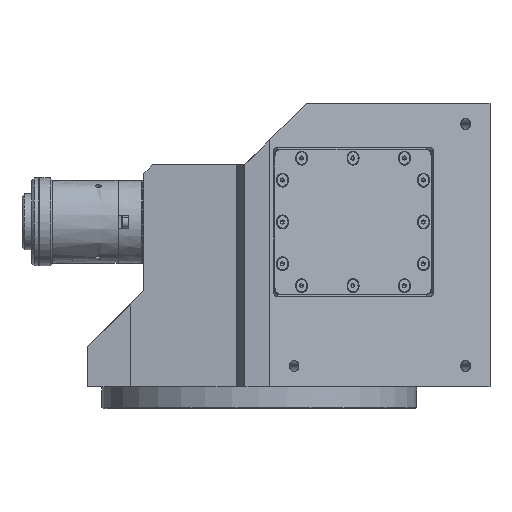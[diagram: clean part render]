
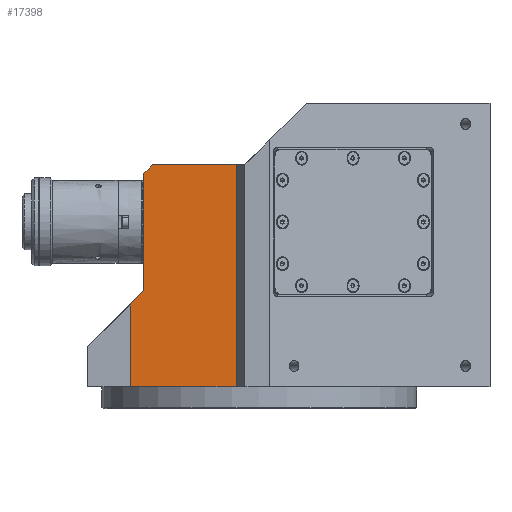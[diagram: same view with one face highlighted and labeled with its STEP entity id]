
A CAD part, front view. The second image highlights one B-rep face of the part: STEP entity #17398.
In plain terms, the highlighted free-form (B-spline) face has degree [1, 1] with [2, 2] control points.
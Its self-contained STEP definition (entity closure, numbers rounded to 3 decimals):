
#17398 = ADVANCED_FACE('',(#17399),#17413,.T.);
#17399 = FACE_BOUND('',#17400,.T.);
#17400 = EDGE_LOOP('',(#17401,#17423,#17438,#17453,#17468,#17483,#17498)
  );
#17401 = ORIENTED_EDGE('',*,*,#17402,.T.);
#17402 = EDGE_CURVE('',#17403,#17405,#17407,.T.);
#17403 = VERTEX_POINT('',#17404);
#17404 = CARTESIAN_POINT('',(-52.534,-85.,104.));
#17405 = VERTEX_POINT('',#17406);
#17406 = CARTESIAN_POINT('',(-48.534,-85.,108.));
#17407 = SURFACE_CURVE('',#17408,(#17412),.PCURVE_S1.);
#17408 = LINE('',#17409,#17410);
#17409 = CARTESIAN_POINT('',(-52.534,-85.,104.));
#17410 = VECTOR('',#17411,1.);
#17411 = DIRECTION('',(0.707,0.,0.707));
#17412 = PCURVE('',#17413,#17418);
#17413 = B_SPLINE_SURFACE_WITH_KNOTS('',1,1,(
    (#17414,#17415)
    ,(#17416,#17417
    )),.UNSPECIFIED.,.F.,.F.,.F.,(2,2),(2,2),(0.,1.),(0.,1.),
  .PIECEWISE_BEZIER_KNOTS.);
#17414 = CARTESIAN_POINT('',(-58.527,-85.,7.));
#17415 = CARTESIAN_POINT('',(-10.523,-85.,7.));
#17416 = CARTESIAN_POINT('',(-58.527,-85.,108.));
#17417 = CARTESIAN_POINT('',(-10.523,-85.,108.));
#17418 = DEFINITIONAL_REPRESENTATION('',(#17419),#17422);
#17419 = B_SPLINE_CURVE_WITH_KNOTS('',1,(#17420,#17421),.UNSPECIFIED.,
  .F.,.F.,(2,2),(0.,5.657),.PIECEWISE_BEZIER_KNOTS.);
#17420 = CARTESIAN_POINT('',(0.96,0.125));
#17421 = CARTESIAN_POINT('',(1.,0.208));
#17422 = ( GEOMETRIC_REPRESENTATION_CONTEXT(2) 
PARAMETRIC_REPRESENTATION_CONTEXT() REPRESENTATION_CONTEXT('',''
  ) );
#17423 = ORIENTED_EDGE('',*,*,#17424,.T.);
#17424 = EDGE_CURVE('',#17405,#17425,#17427,.T.);
#17425 = VERTEX_POINT('',#17426);
#17426 = CARTESIAN_POINT('',(-10.523,-85.,108.));
#17427 = SURFACE_CURVE('',#17428,(#17432),.PCURVE_S1.);
#17428 = LINE('',#17429,#17430);
#17429 = CARTESIAN_POINT('',(-48.534,-85.,108.));
#17430 = VECTOR('',#17431,1.);
#17431 = DIRECTION('',(1.,0.,0.));
#17432 = PCURVE('',#17413,#17433);
#17433 = DEFINITIONAL_REPRESENTATION('',(#17434),#17437);
#17434 = B_SPLINE_CURVE_WITH_KNOTS('',1,(#17435,#17436),.UNSPECIFIED.,
  .F.,.F.,(2,2),(0.,38.011),.PIECEWISE_BEZIER_KNOTS.);
#17435 = CARTESIAN_POINT('',(1.,0.208));
#17436 = CARTESIAN_POINT('',(1.,1.));
#17437 = ( GEOMETRIC_REPRESENTATION_CONTEXT(2) 
PARAMETRIC_REPRESENTATION_CONTEXT() REPRESENTATION_CONTEXT('',''
  ) );
#17438 = ORIENTED_EDGE('',*,*,#17439,.T.);
#17439 = EDGE_CURVE('',#17425,#17440,#17442,.T.);
#17440 = VERTEX_POINT('',#17441);
#17441 = CARTESIAN_POINT('',(-10.523,-85.,7.));
#17442 = SURFACE_CURVE('',#17443,(#17447),.PCURVE_S1.);
#17443 = LINE('',#17444,#17445);
#17444 = CARTESIAN_POINT('',(-10.523,-85.,108.));
#17445 = VECTOR('',#17446,1.);
#17446 = DIRECTION('',(0.,0.,-1.));
#17447 = PCURVE('',#17413,#17448);
#17448 = DEFINITIONAL_REPRESENTATION('',(#17449),#17452);
#17449 = B_SPLINE_CURVE_WITH_KNOTS('',1,(#17450,#17451),.UNSPECIFIED.,
  .F.,.F.,(2,2),(0.,101.),.PIECEWISE_BEZIER_KNOTS.);
#17450 = CARTESIAN_POINT('',(1.,1.));
#17451 = CARTESIAN_POINT('',(0.,1.));
#17452 = ( GEOMETRIC_REPRESENTATION_CONTEXT(2) 
PARAMETRIC_REPRESENTATION_CONTEXT() REPRESENTATION_CONTEXT('',''
  ) );
#17453 = ORIENTED_EDGE('',*,*,#17454,.T.);
#17454 = EDGE_CURVE('',#17440,#17455,#17457,.T.);
#17455 = VERTEX_POINT('',#17456);
#17456 = CARTESIAN_POINT('',(-58.527,-85.,7.));
#17457 = SURFACE_CURVE('',#17458,(#17462),.PCURVE_S1.);
#17458 = LINE('',#17459,#17460);
#17459 = CARTESIAN_POINT('',(-10.523,-85.,7.));
#17460 = VECTOR('',#17461,1.);
#17461 = DIRECTION('',(-1.,0.,0.));
#17462 = PCURVE('',#17413,#17463);
#17463 = DEFINITIONAL_REPRESENTATION('',(#17464),#17467);
#17464 = B_SPLINE_CURVE_WITH_KNOTS('',1,(#17465,#17466),.UNSPECIFIED.,
  .F.,.F.,(2,2),(0.,48.004),.PIECEWISE_BEZIER_KNOTS.);
#17465 = CARTESIAN_POINT('',(0.,1.));
#17466 = CARTESIAN_POINT('',(0.,0.));
#17467 = ( GEOMETRIC_REPRESENTATION_CONTEXT(2) 
PARAMETRIC_REPRESENTATION_CONTEXT() REPRESENTATION_CONTEXT('',''
  ) );
#17468 = ORIENTED_EDGE('',*,*,#17469,.T.);
#17469 = EDGE_CURVE('',#17455,#17470,#17472,.T.);
#17470 = VERTEX_POINT('',#17471);
#17471 = CARTESIAN_POINT('',(-58.527,-85.,44.686));
#17472 = SURFACE_CURVE('',#17473,(#17477),.PCURVE_S1.);
#17473 = LINE('',#17474,#17475);
#17474 = CARTESIAN_POINT('',(-58.527,-85.,7.));
#17475 = VECTOR('',#17476,1.);
#17476 = DIRECTION('',(0.,0.,1.));
#17477 = PCURVE('',#17413,#17478);
#17478 = DEFINITIONAL_REPRESENTATION('',(#17479),#17482);
#17479 = B_SPLINE_CURVE_WITH_KNOTS('',1,(#17480,#17481),.UNSPECIFIED.,
  .F.,.F.,(2,2),(0.,37.686),.PIECEWISE_BEZIER_KNOTS.);
#17480 = CARTESIAN_POINT('',(0.,0.));
#17481 = CARTESIAN_POINT('',(0.373,0.));
#17482 = ( GEOMETRIC_REPRESENTATION_CONTEXT(2) 
PARAMETRIC_REPRESENTATION_CONTEXT() REPRESENTATION_CONTEXT('',''
  ) );
#17483 = ORIENTED_EDGE('',*,*,#17484,.T.);
#17484 = EDGE_CURVE('',#17470,#17485,#17487,.T.);
#17485 = VERTEX_POINT('',#17486);
#17486 = CARTESIAN_POINT('',(-52.534,-85.,50.679));
#17487 = SURFACE_CURVE('',#17488,(#17492),.PCURVE_S1.);
#17488 = LINE('',#17489,#17490);
#17489 = CARTESIAN_POINT('',(-58.527,-85.,44.686));
#17490 = VECTOR('',#17491,1.);
#17491 = DIRECTION('',(0.707,0.,0.707));
#17492 = PCURVE('',#17413,#17493);
#17493 = DEFINITIONAL_REPRESENTATION('',(#17494),#17497);
#17494 = B_SPLINE_CURVE_WITH_KNOTS('',1,(#17495,#17496),.UNSPECIFIED.,
  .F.,.F.,(2,2),(0.,8.476),.PIECEWISE_BEZIER_KNOTS.);
#17495 = CARTESIAN_POINT('',(0.373,0.));
#17496 = CARTESIAN_POINT('',(0.432,0.125));
#17497 = ( GEOMETRIC_REPRESENTATION_CONTEXT(2) 
PARAMETRIC_REPRESENTATION_CONTEXT() REPRESENTATION_CONTEXT('',''
  ) );
#17498 = ORIENTED_EDGE('',*,*,#17499,.T.);
#17499 = EDGE_CURVE('',#17485,#17403,#17500,.T.);
#17500 = SURFACE_CURVE('',#17501,(#17505),.PCURVE_S1.);
#17501 = LINE('',#17502,#17503);
#17502 = CARTESIAN_POINT('',(-52.534,-85.,50.679));
#17503 = VECTOR('',#17504,1.);
#17504 = DIRECTION('',(0.,0.,1.));
#17505 = PCURVE('',#17413,#17506);
#17506 = DEFINITIONAL_REPRESENTATION('',(#17507),#17510);
#17507 = B_SPLINE_CURVE_WITH_KNOTS('',1,(#17508,#17509),.UNSPECIFIED.,
  .F.,.F.,(2,2),(0.,53.321),.PIECEWISE_BEZIER_KNOTS.);
#17508 = CARTESIAN_POINT('',(0.432,0.125));
#17509 = CARTESIAN_POINT('',(0.96,0.125));
#17510 = ( GEOMETRIC_REPRESENTATION_CONTEXT(2) 
PARAMETRIC_REPRESENTATION_CONTEXT() REPRESENTATION_CONTEXT('',''
  ) );
